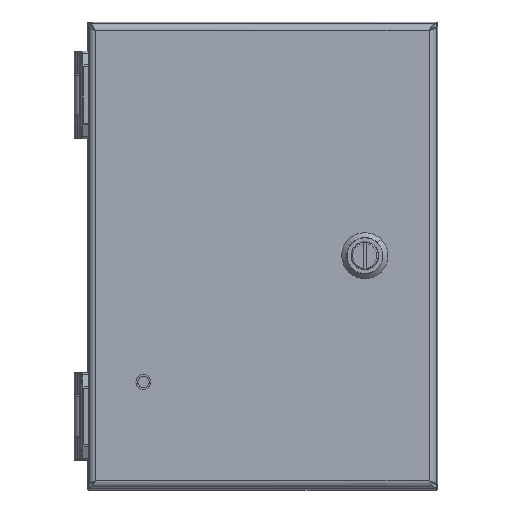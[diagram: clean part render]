
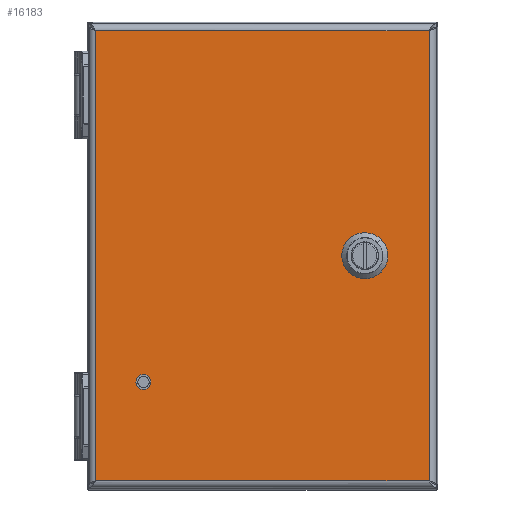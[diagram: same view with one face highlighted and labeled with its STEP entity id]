
A CAD part, top view. The second image highlights one B-rep face of the part: STEP entity #16183.
In plain terms, the highlighted planar face has unit normal (0, 0, 1).
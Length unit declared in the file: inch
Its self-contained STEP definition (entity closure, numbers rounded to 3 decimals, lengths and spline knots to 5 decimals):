
#14266=CARTESIAN_POINT('',(-2.035,-2.16,0.81));
#14267=DIRECTION('',(0.,0.,1.));
#14268=DIRECTION('',(-1.,0.,0.));
#14269=AXIS2_PLACEMENT_3D('',#14266,#14267,#14268);
#14274=CARTESIAN_POINT('',(-2.035,-2.16,0.81));
#14275=DIRECTION('',(0.,0.,1.));
#14276=DIRECTION('',(1.,0.,0.));
#14277=AXIS2_PLACEMENT_3D('',#14274,#14275,#14276);
#14282=DIRECTION('',(0.707,0.707,0.));
#14283=VECTOR('',#14282,0.30984);
#14284=CARTESIAN_POINT('',(1.44447,0.08845,0.81));
#14285=LINE('',#14284,#14283);
#14289=CARTESIAN_POINT('',(1.752,0.,0.81));
#14290=DIRECTION('',(0.,0.,1.));
#14291=DIRECTION('',(-0.961,0.276,0.));
#14292=AXIS2_PLACEMENT_3D('',#14289,#14290,#14291);
#14297=DIRECTION('',(-0.707,0.707,0.));
#14298=VECTOR('',#14297,0.30984);
#14299=CARTESIAN_POINT('',(1.66355,-0.30753,0.81));
#14300=LINE('',#14299,#14298);
#14304=CARTESIAN_POINT('',(1.752,0.,0.81));
#14305=DIRECTION('',(0.,0.,1.));
#14306=DIRECTION('',(-0.276,-0.961,0.));
#14307=AXIS2_PLACEMENT_3D('',#14304,#14305,#14306);
#14312=DIRECTION('',(-0.707,-0.707,0.));
#14313=VECTOR('',#14312,0.30984);
#14314=CARTESIAN_POINT('',(2.05953,-0.08845,0.81));
#14315=LINE('',#14314,#14313);
#14319=CARTESIAN_POINT('',(1.752,0.,0.81));
#14320=DIRECTION('',(0.,0.,1.));
#14321=DIRECTION('',(0.961,-0.276,0.));
#14322=AXIS2_PLACEMENT_3D('',#14319,#14320,#14321);
#14327=DIRECTION('',(0.707,-0.707,0.));
#14328=VECTOR('',#14327,0.30984);
#14329=CARTESIAN_POINT('',(1.84045,0.30753,0.81));
#14330=LINE('',#14329,#14328);
#14334=CARTESIAN_POINT('',(1.752,0.,0.81));
#14335=DIRECTION('',(0.,0.,1.));
#14336=DIRECTION('',(0.276,0.961,0.));
#14337=AXIS2_PLACEMENT_3D('',#14334,#14335,#14336);
#14342=DIRECTION('',(1.,0.,0.));
#14343=VECTOR('',#14342,5.7);
#14344=CARTESIAN_POINT('',(-2.85,-3.85,0.81));
#14345=LINE('',#14344,#14343);
#14440=DIRECTION('',(0.,1.,0.));
#14441=VECTOR('',#14440,7.7);
#14442=CARTESIAN_POINT('',(2.85,-3.85,0.81));
#14443=LINE('',#14442,#14441);
#14492=DIRECTION('',(-1.,0.,0.));
#14493=VECTOR('',#14492,5.7);
#14494=CARTESIAN_POINT('',(2.85,3.85,0.81));
#14495=LINE('',#14494,#14493);
#14597=DIRECTION('',(0.,-1.,0.));
#14598=VECTOR('',#14597,7.7);
#14599=CARTESIAN_POINT('',(-2.85,3.85,0.81));
#14600=LINE('',#14599,#14598);
#15912=CARTESIAN_POINT('',(-2.85,3.85,0.81));
#15913=CARTESIAN_POINT('',(-2.85,-3.85,0.81));
#15914=VERTEX_POINT('',#15912);
#15915=VERTEX_POINT('',#15913);
#15916=CARTESIAN_POINT('',(2.85,-3.85,0.81));
#15917=CARTESIAN_POINT('',(2.85,3.85,0.81));
#15918=VERTEX_POINT('',#15916);
#15919=VERTEX_POINT('',#15917);
#15984=CARTESIAN_POINT('',(-2.13305,-2.16,0.81));
#15985=CARTESIAN_POINT('',(-1.93695,-2.16,0.81));
#15986=VERTEX_POINT('',#15984);
#15987=VERTEX_POINT('',#15985);
#15992=CARTESIAN_POINT('',(1.44447,0.08845,0.81));
#15993=CARTESIAN_POINT('',(1.66355,0.30753,0.81));
#15994=VERTEX_POINT('',#15992);
#15995=VERTEX_POINT('',#15993);
#15996=CARTESIAN_POINT('',(1.84045,0.30753,0.81));
#15997=VERTEX_POINT('',#15996);
#15998=CARTESIAN_POINT('',(2.05953,0.08845,0.81));
#15999=VERTEX_POINT('',#15998);
#16000=CARTESIAN_POINT('',(2.05953,-0.08845,0.81));
#16001=VERTEX_POINT('',#16000);
#16002=CARTESIAN_POINT('',(1.84045,-0.30753,0.81));
#16003=VERTEX_POINT('',#16002);
#16004=CARTESIAN_POINT('',(1.66355,-0.30753,0.81));
#16005=VERTEX_POINT('',#16004);
#16006=CARTESIAN_POINT('',(1.44447,-0.08845,0.81));
#16007=VERTEX_POINT('',#16006);
#16144=CARTESIAN_POINT('',(0.,0.,0.81));
#16145=DIRECTION('',(0.,0.,1.));
#16146=DIRECTION('',(1.,0.,0.));
#16147=AXIS2_PLACEMENT_3D('',#16144,#16145,#16146);
#16148=PLANE('',#16147);
#16150=ORIENTED_EDGE('',*,*,#16149,.F.);
#16152=ORIENTED_EDGE('',*,*,#16151,.F.);
#16154=ORIENTED_EDGE('',*,*,#16153,.F.);
#16156=ORIENTED_EDGE('',*,*,#16155,.F.);
#16157=EDGE_LOOP('',(#16150,#16152,#16154,#16156));
#16158=FACE_OUTER_BOUND('',#16157,.F.);
#16160=ORIENTED_EDGE('',*,*,#16159,.T.);
#16162=ORIENTED_EDGE('',*,*,#16161,.T.);
#16163=EDGE_LOOP('',(#16160,#16162));
#16164=FACE_BOUND('',#16163,.F.);
#16166=ORIENTED_EDGE('',*,*,#16165,.F.);
#16168=ORIENTED_EDGE('',*,*,#16167,.T.);
#16170=ORIENTED_EDGE('',*,*,#16169,.F.);
#16172=ORIENTED_EDGE('',*,*,#16171,.T.);
#16174=ORIENTED_EDGE('',*,*,#16173,.F.);
#16176=ORIENTED_EDGE('',*,*,#16175,.T.);
#16178=ORIENTED_EDGE('',*,*,#16177,.F.);
#16180=ORIENTED_EDGE('',*,*,#16179,.T.);
#16181=EDGE_LOOP('',(#16166,#16168,#16170,#16172,#16174,#16176,#16178,#16180));
#16182=FACE_BOUND('',#16181,.F.);
#14270=CIRCLE('',#14269,0.09805);
#14278=CIRCLE('',#14277,0.09805);
#14293=CIRCLE('',#14292,0.32);
#14308=CIRCLE('',#14307,0.32);
#14323=CIRCLE('',#14322,0.32);
#14338=CIRCLE('',#14337,0.32);
#16149=EDGE_CURVE('',#15915,#15918,#14345,.T.);
#16151=EDGE_CURVE('',#15914,#15915,#14600,.T.);
#16153=EDGE_CURVE('',#15919,#15914,#14495,.T.);
#16155=EDGE_CURVE('',#15918,#15919,#14443,.T.);
#16159=EDGE_CURVE('',#15986,#15987,#14270,.T.);
#16161=EDGE_CURVE('',#15987,#15986,#14278,.T.);
#16165=EDGE_CURVE('',#15994,#15995,#14285,.T.);
#16167=EDGE_CURVE('',#15994,#16007,#14293,.T.);
#16169=EDGE_CURVE('',#16005,#16007,#14300,.T.);
#16171=EDGE_CURVE('',#16005,#16003,#14308,.T.);
#16173=EDGE_CURVE('',#16001,#16003,#14315,.T.);
#16175=EDGE_CURVE('',#16001,#15999,#14323,.T.);
#16177=EDGE_CURVE('',#15997,#15999,#14330,.T.);
#16179=EDGE_CURVE('',#15997,#15995,#14338,.T.);
#16183=ADVANCED_FACE('',(#16158,#16164,#16182),#16148,.T.);
